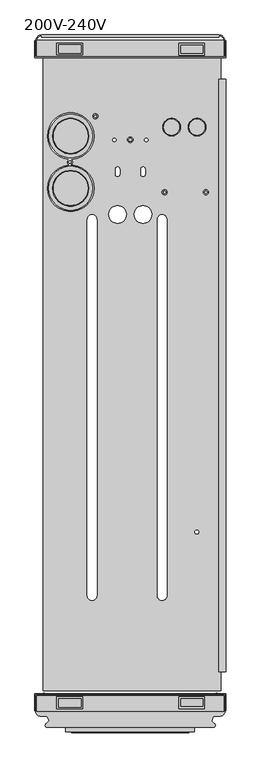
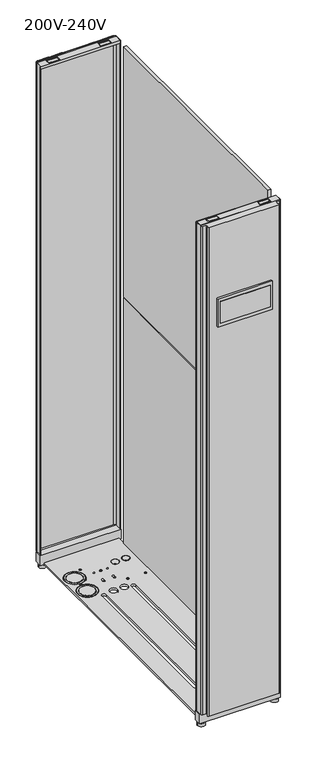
"""IFC4 building model written with IfcOpenShell, lengths in millimetres: proxy geometry, BIM_Model_for_ACRC301H-AC-Close_Coupled-Schneider_Electric-Chilled_Water-InRow_RC_301H-(208-230)V : 200V-240V."""

from ifc_helpers import new_model, si_unit, point, frame, frame_2d, origin, place, context, project, spatial, polyline, circle_curve, trimmed, segment, composite_curve, outline, extrude, source, transform, mapped, element, save


def proxy_200v_240v_835bb11a(model_context):
    return source(origin(), model_context, "Body", "SweptSolid", [
        extrude(outline(polyline([(142.2494993, -481.2304637), (-136.6898813, -481.2304637), (-136.6898813, 536.3846566), (142.2494993, 536.3846566), (142.2494993, -481.2304637)]), holes=[composite_curve([segment(trimmed(circle_curve(frame_2d((-93.7, 389.1530054)), 36.5), [point((-130.2, 389.1530054))], [point((-57.2, 389.1530054))], True, "CARTESIAN"), True, "CONTINUOUS"), segment(trimmed(circle_curve(frame_2d((-93.7, 389.1530054)), 36.5), [point((-57.2, 389.1530054))], [point((-130.2, 389.1530054))], True, "CARTESIAN"), True, "CONTINUOUS")], self_intersect=False), composite_curve([segment(trimmed(circle_curve(frame_2d((65.0, 403.1560054)), 13.8811), [point((51.1189, 403.1560054))], [point((78.8811, 403.1560054))], True, "CARTESIAN"), True, "CONTINUOUS"), segment(trimmed(circle_curve(frame_2d((65.0, 403.1560054)), 13.8811), [point((78.8811, 403.1560054))], [point((51.1189, 403.1560054))], True, "CARTESIAN"), True, "CONTINUOUS")], self_intersect=False), composite_curve([segment(trimmed(circle_curve(frame_2d((105.0, 403.1560054)), 13.8811), [point((91.1189, 403.1560054))], [point((118.8811, 403.1560054))], True, "CARTESIAN"), True, "CONTINUOUS"), segment(trimmed(circle_curve(frame_2d((105.0, 403.1560054)), 13.8811), [point((118.8811, 403.1560054))], [point((91.1189, 403.1560054))], True, "CARTESIAN"), True, "CONTINUOUS")], self_intersect=False), composite_curve([segment(trimmed(circle_curve(frame_2d((-93.7, 307.1530054)), 36.5), [point((-130.2, 307.1530054))], [point((-57.2, 307.1530054))], True, "CARTESIAN"), True, "CONTINUOUS"), segment(trimmed(circle_curve(frame_2d((-93.7, 307.1530054)), 36.5), [point((-57.2, 307.1530054))], [point((-130.2, 307.1530054))], True, "CARTESIAN"), True, "CONTINUOUS")], self_intersect=False), composite_curve([segment(trimmed(circle_curve(frame_2d((-20.0, 329.1560054)), 3.5), [point((-23.5, 329.1560054))], [point((-16.5, 329.1560054))], True, "CARTESIAN"), True, "CONTINUOUS"), segment(polyline([(-16.5, 329.1560054), (-16.5, 337.1560054)]), True, "CONTINUOUS"), segment(trimmed(circle_curve(frame_2d((-20.0, 337.1560054)), 3.5), [point((-16.5, 337.1560054))], [point((-23.5, 337.1560054))], True, "CARTESIAN"), True, "CONTINUOUS"), segment(polyline([(-23.5, 337.1560054), (-23.5, 329.1560054)]), True, "CONTINUOUS")], self_intersect=False), composite_curve([segment(trimmed(circle_curve(frame_2d((20.0, 329.1560054)), 3.5), [point((16.5, 329.1560054))], [point((23.5, 329.1560054))], True, "CARTESIAN"), True, "CONTINUOUS"), segment(polyline([(23.5, 329.1560054), (23.5, 337.1560054)]), True, "CONTINUOUS"), segment(trimmed(circle_curve(frame_2d((20.0, 337.1560054)), 3.5), [point((23.5, 337.1560054))], [point((16.5, 337.1560054))], True, "CARTESIAN"), True, "CONTINUOUS"), segment(polyline([(16.5, 337.1560054), (16.5, 329.1560054)]), True, "CONTINUOUS")], self_intersect=False), composite_curve([segment(trimmed(circle_curve(frame_2d((50.0, -331.8439946)), 7.5498344), [point((42.4501656, -331.8439946))], [point((57.5498344, -331.8439946))], True, "CARTESIAN"), True, "CONTINUOUS"), segment(polyline([(57.5498344, -331.8439946), (57.5498344, 258.1560054)]), True, "CONTINUOUS"), segment(trimmed(circle_curve(frame_2d((50.0, 258.1560054)), 7.5498344), [point((57.5498344, 258.1560054))], [point((42.4501656, 258.1560054))], True, "CARTESIAN"), True, "CONTINUOUS"), segment(polyline([(42.4501656, 258.1560054), (42.4501656, -331.8439946)]), True, "CONTINUOUS")], self_intersect=False), composite_curve([segment(polyline([(-67.5498344, 258.1560054), (-67.5498344, -331.8439946)]), True, "CONTINUOUS"), segment(trimmed(circle_curve(frame_2d((-60.0, -331.8439946)), 7.5498344), [point((-67.5498344, -331.8439946))], [point((-52.4501656, -331.8439946))], True, "CARTESIAN"), True, "CONTINUOUS"), segment(polyline([(-52.4501656, -331.8439946), (-52.4501656, 258.1560054)]), True, "CONTINUOUS"), segment(trimmed(circle_curve(frame_2d((-60.0, 258.1560054)), 7.5498344), [point((-52.4501656, 258.1560054))], [point((-67.5498344, 258.1560054))], True, "CARTESIAN"), True, "CONTINUOUS")], self_intersect=False), composite_curve([segment(trimmed(circle_curve(frame_2d((-20.0, 266.1560054)), 13.9), [point((-33.9, 266.1560054))], [point((-6.1, 266.1560054))], True, "CARTESIAN"), True, "CONTINUOUS"), segment(trimmed(circle_curve(frame_2d((-20.0, 266.1560054)), 13.9), [point((-6.1, 266.1560054))], [point((-33.9, 266.1560054))], True, "CARTESIAN"), True, "CONTINUOUS")], self_intersect=False), composite_curve([segment(trimmed(circle_curve(frame_2d((20.0, 266.1560054)), 13.9), [point((6.1, 266.1560054))], [point((33.9, 266.1560054))], True, "CARTESIAN"), True, "CONTINUOUS"), segment(trimmed(circle_curve(frame_2d((20.0, 266.1560054)), 13.9), [point((33.9, 266.1560054))], [point((6.1, 266.1560054))], True, "CARTESIAN"), True, "CONTINUOUS")], self_intersect=False), composite_curve([segment(trimmed(circle_curve(frame_2d((0.0, 383.1560054)), 4.35), [point((-4.35, 383.1560054))], [point((4.35, 383.1560054))], True, "CARTESIAN"), True, "CONTINUOUS"), segment(trimmed(circle_curve(frame_2d((0.0, 383.1560054)), 4.35), [point((4.35, 383.1560054))], [point((-4.35, 383.1560054))], True, "CARTESIAN"), True, "CONTINUOUS")], self_intersect=False), composite_curve([segment(trimmed(circle_curve(frame_2d((25.0, 383.1560054)), 2.664701), [point((22.335299, 383.1560054))], [point((27.664701, 383.1560054))], True, "CARTESIAN"), True, "CONTINUOUS"), segment(trimmed(circle_curve(frame_2d((25.0, 383.1560054)), 2.664701), [point((27.664701, 383.1560054))], [point((22.335299, 383.1560054))], True, "CARTESIAN"), True, "CONTINUOUS")], self_intersect=False), composite_curve([segment(trimmed(circle_curve(frame_2d((-25.0, 383.1560054)), 2.664701), [point((-27.664701, 383.1560054))], [point((-22.335299, 383.1560054))], True, "CARTESIAN"), True, "CONTINUOUS"), segment(trimmed(circle_curve(frame_2d((-25.0, 383.1560054)), 2.664701), [point((-22.335299, 383.1560054))], [point((-27.664701, 383.1560054))], True, "CARTESIAN"), True, "CONTINUOUS")], self_intersect=False), composite_curve([segment(trimmed(circle_curve(frame_2d((-54.7, 420.1530054)), 3.95), [point((-58.65, 420.1530054))], [point((-50.75, 420.1530054))], True, "CARTESIAN"), True, "CONTINUOUS"), segment(trimmed(circle_curve(frame_2d((-54.7, 420.1530054)), 3.95), [point((-50.75, 420.1530054))], [point((-58.65, 420.1530054))], True, "CARTESIAN"), True, "CONTINUOUS")], self_intersect=False), composite_curve([segment(trimmed(circle_curve(frame_2d((118.82, 300.9660054)), 3.95), [point((114.87, 300.9660054))], [point((122.77, 300.9660054))], True, "CARTESIAN"), True, "CONTINUOUS"), segment(trimmed(circle_curve(frame_2d((118.82, 300.9660054)), 3.95), [point((122.77, 300.9660054))], [point((114.87, 300.9660054))], True, "CARTESIAN"), True, "CONTINUOUS")], self_intersect=False), composite_curve([segment(trimmed(circle_curve(frame_2d((53.82, 300.9660054)), 3.95), [point((49.87, 300.9660054))], [point((57.77, 300.9660054))], True, "CARTESIAN"), True, "CONTINUOUS"), segment(trimmed(circle_curve(frame_2d((53.82, 300.9660054)), 3.95), [point((57.77, 300.9660054))], [point((49.87, 300.9660054))], True, "CARTESIAN"), True, "CONTINUOUS")], self_intersect=False), composite_curve([segment(trimmed(circle_curve(frame_2d((104.6730485, -232.1853709)), 3.0), [point((101.6730485, -232.1853709))], [point((107.6730485, -232.1853709))], True, "CARTESIAN"), True, "CONTINUOUS"), segment(trimmed(circle_curve(frame_2d((104.6730485, -232.1853709)), 3.0), [point((107.6730485, -232.1853709))], [point((101.6730485, -232.1853709))], True, "CARTESIAN"), True, "CONTINUOUS")], self_intersect=False), composite_curve([segment(trimmed(circle_curve(frame_2d((-94.7, 348.1530054)), 3.95), [point((-98.65, 348.1530054))], [point((-90.75, 348.1530054))], True, "CARTESIAN"), True, "CONTINUOUS"), segment(trimmed(circle_curve(frame_2d((-94.7, 348.1530054)), 3.95), [point((-90.75, 348.1530054))], [point((-98.65, 348.1530054))], True, "CARTESIAN"), True, "CONTINUOUS")], self_intersect=False)]), frame((0.0, 0.0, 35.0), z_axis=(0.0, 0.0, 1.0), x_axis=(1.0, 0.0, 0.0)), (0.0, 0.0, 1.0), 7.0),
        extrude(outline(composite_curve([segment(trimmed(circle_curve(frame_2d((-93.7, 389.1530054)), 34.5), [point((-128.2, 389.1530054))], [point((-59.2, 389.1530054))], False, "CARTESIAN"), True, "CONTINUOUS"), segment(trimmed(circle_curve(frame_2d((-93.7, 389.1530054)), 34.5), [point((-59.2, 389.1530054))], [point((-128.2, 389.1530054))], False, "CARTESIAN"), True, "CONTINUOUS")], self_intersect=False), holes=[composite_curve([segment(trimmed(circle_curve(frame_2d((-93.7, 389.1530054)), 28.0), [point((-121.7, 389.1530054))], [point((-65.7, 389.1530054))], True, "CARTESIAN"), True, "CONTINUOUS"), segment(trimmed(circle_curve(frame_2d((-93.7, 389.1530054)), 28.0), [point((-65.7, 389.1530054))], [point((-121.7, 389.1530054))], True, "CARTESIAN"), True, "CONTINUOUS")], self_intersect=False)]), frame((0.0, 0.0, 35.0), z_axis=(0.0, 0.0, 1.0), x_axis=(1.0, 0.0, 0.0)), (0.0, 0.0, 1.0), 7.0),
        extrude(outline(composite_curve([segment(trimmed(circle_curve(frame_2d((-93.7, 389.1530054)), 27.0), [point((-120.7, 389.1530054))], [point((-66.7, 389.1530054))], False, "CARTESIAN"), True, "CONTINUOUS"), segment(trimmed(circle_curve(frame_2d((-93.7, 389.1530054)), 27.0), [point((-66.7, 389.1530054))], [point((-120.7, 389.1530054))], False, "CARTESIAN"), True, "CONTINUOUS")], self_intersect=False)), frame((0.0, 0.0, 35.0), z_axis=(0.0, 0.0, 1.0), x_axis=(1.0, 0.0, 0.0)), (0.0, 0.0, 1.0), 7.0),
        extrude(outline(composite_curve([segment(trimmed(circle_curve(frame_2d((65.0, 403.1560054)), 12.6111), [point((52.3889, 403.1560054))], [point((77.6111, 403.1560054))], False, "CARTESIAN"), True, "CONTINUOUS"), segment(trimmed(circle_curve(frame_2d((65.0, 403.1560054)), 12.6111), [point((77.6111, 403.1560054))], [point((52.3889, 403.1560054))], False, "CARTESIAN"), True, "CONTINUOUS")], self_intersect=False)), frame((0.0, 0.0, 35.0), z_axis=(0.0, 0.0, 1.0), x_axis=(1.0, 0.0, 0.0)), (0.0, 0.0, 1.0), 7.0),
        extrude(outline(composite_curve([segment(trimmed(circle_curve(frame_2d((105.0, 403.1560054)), 12.6111), [point((92.3889, 403.1560054))], [point((117.6111, 403.1560054))], False, "CARTESIAN"), True, "CONTINUOUS"), segment(trimmed(circle_curve(frame_2d((105.0, 403.1560054)), 12.6111), [point((117.6111, 403.1560054))], [point((92.3889, 403.1560054))], False, "CARTESIAN"), True, "CONTINUOUS")], self_intersect=False)), frame((0.0, 0.0, 35.0), z_axis=(0.0, 0.0, 1.0), x_axis=(1.0, 0.0, 0.0)), (0.0, 0.0, 1.0), 7.0),
        extrude(outline(composite_curve([segment(trimmed(circle_curve(frame_2d((-93.7, 307.1530054)), 34.5), [point((-128.2, 307.1530054))], [point((-59.2, 307.1530054))], False, "CARTESIAN"), True, "CONTINUOUS"), segment(trimmed(circle_curve(frame_2d((-93.7, 307.1530054)), 34.5), [point((-59.2, 307.1530054))], [point((-128.2, 307.1530054))], False, "CARTESIAN"), True, "CONTINUOUS")], self_intersect=False), holes=[composite_curve([segment(trimmed(circle_curve(frame_2d((-93.7, 307.1530054)), 28.0), [point((-121.7, 307.1530054))], [point((-65.7, 307.1530054))], True, "CARTESIAN"), True, "CONTINUOUS"), segment(trimmed(circle_curve(frame_2d((-93.7, 307.1530054)), 28.0), [point((-65.7, 307.1530054))], [point((-121.7, 307.1530054))], True, "CARTESIAN"), True, "CONTINUOUS")], self_intersect=False)]), frame((0.0, 0.0, 35.0), z_axis=(0.0, 0.0, 1.0), x_axis=(1.0, 0.0, 0.0)), (0.0, 0.0, 1.0), 7.0),
        extrude(outline(composite_curve([segment(trimmed(circle_curve(frame_2d((-93.7, 307.1530054)), 27.0), [point((-120.7, 307.1530054))], [point((-66.7, 307.1530054))], False, "CARTESIAN"), True, "CONTINUOUS"), segment(trimmed(circle_curve(frame_2d((-93.7, 307.1530054)), 27.0), [point((-66.7, 307.1530054))], [point((-120.7, 307.1530054))], False, "CARTESIAN"), True, "CONTINUOUS")], self_intersect=False)), frame((0.0, 0.0, 35.0), z_axis=(0.0, 0.0, 1.0), x_axis=(1.0, 0.0, 0.0)), (0.0, 0.0, 1.0), 7.0),
        extrude(outline(composite_curve([segment(trimmed(circle_curve(frame_2d((0.0, 383.1560054)), 2.5), [point((-2.5, 383.1560054))], [point((2.5, 383.1560054))], False, "CARTESIAN"), True, "CONTINUOUS"), segment(trimmed(circle_curve(frame_2d((0.0, 383.1560054)), 2.5), [point((2.5, 383.1560054))], [point((-2.5, 383.1560054))], False, "CARTESIAN"), True, "CONTINUOUS")], self_intersect=False)), frame((0.0, 0.0, 35.0), z_axis=(0.0, 0.0, 1.0), x_axis=(1.0, 0.0, 0.0)), (0.0, 0.0, 1.0), 7.0),
        extrude(outline(composite_curve([segment(trimmed(circle_curve(frame_2d((-54.7, 420.1530054)), 2.0), [point((-56.7, 420.1530054))], [point((-52.7, 420.1530054))], False, "CARTESIAN"), True, "CONTINUOUS"), segment(trimmed(circle_curve(frame_2d((-54.7, 420.1530054)), 2.0), [point((-52.7, 420.1530054))], [point((-56.7, 420.1530054))], False, "CARTESIAN"), True, "CONTINUOUS")], self_intersect=False)), frame((0.0, 0.0, 35.0), z_axis=(0.0, 0.0, 1.0), x_axis=(1.0, 0.0, 0.0)), (0.0, 0.0, 1.0), 7.0),
        extrude(outline(composite_curve([segment(trimmed(circle_curve(frame_2d((118.82, 300.9660054)), 2.0), [point((116.82, 300.9660054))], [point((120.82, 300.9660054))], False, "CARTESIAN"), True, "CONTINUOUS"), segment(trimmed(circle_curve(frame_2d((118.82, 300.9660054)), 2.0), [point((120.82, 300.9660054))], [point((116.82, 300.9660054))], False, "CARTESIAN"), True, "CONTINUOUS")], self_intersect=False)), frame((0.0, 0.0, 35.0), z_axis=(0.0, 0.0, 1.0), x_axis=(1.0, 0.0, 0.0)), (0.0, 0.0, 1.0), 7.0),
        extrude(outline(composite_curve([segment(trimmed(circle_curve(frame_2d((53.82, 300.9660054)), 2.0), [point((51.82, 300.9660054))], [point((55.82, 300.9660054))], False, "CARTESIAN"), True, "CONTINUOUS"), segment(trimmed(circle_curve(frame_2d((53.82, 300.9660054)), 2.0), [point((55.82, 300.9660054))], [point((51.82, 300.9660054))], False, "CARTESIAN"), True, "CONTINUOUS")], self_intersect=False)), frame((0.0, 0.0, 35.0), z_axis=(0.0, 0.0, 1.0), x_axis=(1.0, 0.0, 0.0)), (0.0, 0.0, 1.0), 7.0),
        extrude(outline(composite_curve([segment(trimmed(circle_curve(frame_2d((-94.7, 348.1530054)), 2.0), [point((-96.7, 348.1530054))], [point((-92.7, 348.1530054))], False, "CARTESIAN"), True, "CONTINUOUS"), segment(trimmed(circle_curve(frame_2d((-94.7, 348.1530054)), 2.0), [point((-92.7, 348.1530054))], [point((-96.7, 348.1530054))], False, "CARTESIAN"), True, "CONTINUOUS")], self_intersect=False)), frame((0.0, 0.0, 35.0), z_axis=(0.0, 0.0, 1.0), x_axis=(1.0, 0.0, 0.0)), (0.0, 0.0, 1.0), 7.0),
        extrude(outline(polyline([(92.0038609, -545.8500182), (92.0038609, -547.4999946), (-92.0036993, -547.4999946), (-92.0036993, -545.8500182), (92.0038609, -545.8500182)])), frame((0.0, 0.0, 1609.1384634), z_axis=(0.0, 0.0, 1.0), x_axis=(1.0, 0.0, 0.0)), (0.0, 0.0, 1.0), 84.0986283),
        extrude(outline(polyline([(100.6960411, -537.2923638), (100.6960411, -545.8500182), (-101.4999738, -545.8500182), (-101.4999738, -537.2923638), (100.6960411, -537.2923638)])), frame((0.0, 0.0, 1595.0), z_axis=(0.0, 0.0, 1.0), x_axis=(1.0, 0.0, 0.0)), (0.0, 0.0, 1.0), 111.0),
        extrude(outline(polyline([(-150.0, 511.6535774), (-150.0, 538.7500054), (150.0, 538.7500054), (150.0, 511.6535774), (-150.0, 511.6535774)])), frame((0.0, 0.0, 36.1092195), z_axis=(0.0, 0.0, 1.0), x_axis=(1.0, 0.0, 0.0)), (0.0, 0.0, 1.0), 37.8907805),
        extrude(outline(composite_curve([segment(trimmed(circle_curve(frame_2d((135.9887149, 524.0986273)), 5.0), [point((140.9887149, 524.0986273))], [point((130.9887149, 524.0986273))], False, "CARTESIAN"), True, "CONTINUOUS"), segment(trimmed(circle_curve(frame_2d((135.9887149, 524.0986273)), 5.0), [point((130.9887149, 524.0986273))], [point((140.9887149, 524.0986273))], False, "CARTESIAN"), True, "CONTINUOUS")], self_intersect=False)), frame((0.0, 0.0, 32.1019422), z_axis=(0.0, 0.0, 1.0), x_axis=(1.0, 0.0, 0.0)), (0.0, 0.0, 1.0), 10.4776725),
        extrude(outline(composite_curve([segment(trimmed(circle_curve(frame_2d((135.7422715, 524.7977296)), 13.7438765), [point((149.4861481, 524.7977296))], [point((121.998395, 524.7977296))], False, "CARTESIAN"), True, "CONTINUOUS"), segment(trimmed(circle_curve(frame_2d((135.7422715, 524.7977296)), 13.7438765), [point((121.998395, 524.7977296))], [point((149.4861481, 524.7977296))], False, "CARTESIAN"), True, "CONTINUOUS")], self_intersect=False)), frame((0.0, 0.0, 21.4769368), z_axis=(0.0, 0.0, 1.0), x_axis=(1.0, 0.0, 0.0)), (0.0, 0.0, 1.0), 11.9250061),
        extrude(outline(composite_curve([segment(trimmed(circle_curve(frame_2d((-135.9887149, 524.0986273)), 5.0), [point((-140.9887149, 524.0986273))], [point((-130.9887149, 524.0986273))], False, "CARTESIAN"), True, "CONTINUOUS"), segment(trimmed(circle_curve(frame_2d((-135.9887149, 524.0986273)), 5.0), [point((-130.9887149, 524.0986273))], [point((-140.9887149, 524.0986273))], False, "CARTESIAN"), True, "CONTINUOUS")], self_intersect=False)), frame((0.0, 0.0, 32.1019422), z_axis=(0.0, 0.0, 1.0), x_axis=(1.0, 0.0, 0.0)), (0.0, 0.0, 1.0), 10.4776725),
        extrude(outline(composite_curve([segment(trimmed(circle_curve(frame_2d((-135.7422715, 524.7977296)), 13.7438765), [point((-149.4861481, 524.7977296))], [point((-121.998395, 524.7977296))], False, "CARTESIAN"), True, "CONTINUOUS"), segment(trimmed(circle_curve(frame_2d((-135.7422715, 524.7977296)), 13.7438765), [point((-121.998395, 524.7977296))], [point((-149.4861481, 524.7977296))], False, "CARTESIAN"), True, "CONTINUOUS")], self_intersect=False)), frame((0.0, 0.0, 21.4769368), z_axis=(0.0, 0.0, 1.0), x_axis=(1.0, 0.0, 0.0)), (0.0, 0.0, 1.0), 11.9250061),
        extrude(outline(composite_curve([segment(trimmed(circle_curve(frame_2d((135.9887149, -497.8486165)), 5.0), [point((140.9887149, -497.8486165))], [point((130.9887149, -497.8486165))], False, "CARTESIAN"), True, "CONTINUOUS"), segment(trimmed(circle_curve(frame_2d((135.9887149, -497.8486165)), 5.0), [point((130.9887149, -497.8486165))], [point((140.9887149, -497.8486165))], False, "CARTESIAN"), True, "CONTINUOUS")], self_intersect=False)), frame((0.0, 0.0, 32.1019422), z_axis=(0.0, 0.0, 1.0), x_axis=(1.0, 0.0, 0.0)), (0.0, 0.0, 1.0), 10.4776725),
        extrude(outline(composite_curve([segment(trimmed(circle_curve(frame_2d((135.7422715, -498.5477187)), 13.7438765), [point((149.4861481, -498.5477187))], [point((121.998395, -498.5477187))], False, "CARTESIAN"), True, "CONTINUOUS"), segment(trimmed(circle_curve(frame_2d((135.7422715, -498.5477187)), 13.7438765), [point((121.998395, -498.5477187))], [point((149.4861481, -498.5477187))], False, "CARTESIAN"), True, "CONTINUOUS")], self_intersect=False)), frame((0.0, 0.0, 21.4769368), z_axis=(0.0, 0.0, 1.0), x_axis=(1.0, 0.0, 0.0)), (0.0, 0.0, 1.0), 11.9250061),
        extrude(outline(composite_curve([segment(trimmed(circle_curve(frame_2d((-135.9887149, -497.8486165)), 5.0), [point((-140.9887149, -497.8486165))], [point((-130.9887149, -497.8486165))], False, "CARTESIAN"), True, "CONTINUOUS"), segment(trimmed(circle_curve(frame_2d((-135.9887149, -497.8486165)), 5.0), [point((-130.9887149, -497.8486165))], [point((-140.9887149, -497.8486165))], False, "CARTESIAN"), True, "CONTINUOUS")], self_intersect=False)), frame((0.0, 0.0, 32.1019422), z_axis=(0.0, 0.0, 1.0), x_axis=(1.0, 0.0, 0.0)), (0.0, 0.0, 1.0), 10.4776725),
        extrude(outline(composite_curve([segment(trimmed(circle_curve(frame_2d((-135.7422715, -498.5477187)), 13.7438765), [point((-149.4861481, -498.5477187))], [point((-121.998395, -498.5477187))], False, "CARTESIAN"), True, "CONTINUOUS"), segment(trimmed(circle_curve(frame_2d((-135.7422715, -498.5477187)), 13.7438765), [point((-121.998395, -498.5477187))], [point((-149.4861481, -498.5477187))], False, "CARTESIAN"), True, "CONTINUOUS")], self_intersect=False)), frame((0.0, 0.0, 21.4769368), z_axis=(0.0, 0.0, 1.0), x_axis=(1.0, 0.0, 0.0)), (0.0, 0.0, 1.0), 11.9250061),
        extrude(outline(polyline([(-150.0, -485.4035665), (150.0, -485.4035665), (150.0, -512.4999946), (-150.0, -512.4999946), (-150.0, -485.4035665)])), frame((0.0, 0.0, 36.1092195), z_axis=(0.0, 0.0, 1.0), x_axis=(1.0, 0.0, 0.0)), (0.0, 0.0, 1.0), 37.8907805),
        extrude(outline(polyline([(147.270335, -489.2696386), (147.270335, -513.7425298), (-147.0859984, -513.7425298), (-147.0859984, -489.2696386), (147.270335, -489.2696386)]), holes=[polyline([(-115.7902992, -491.0520969), (-115.7902992, -509.417152), (-74.7110402, -509.417152), (-74.7110402, -491.0520969), (-115.7902992, -491.0520969)]), polyline([(76.6606041, -490.81064), (76.6606041, -509.2856674), (116.6606041, -509.2856674), (116.6606041, -490.81064), (76.6606041, -490.81064)])]), frame((0.0, 0.0, 1980.0), z_axis=(0.0, 0.0, 1.0), x_axis=(1.0, 0.0, 0.0)), (0.0, 0.0, 1.0), 11.0),
        extrude(outline(polyline([(114.3251427, -505.8773154), (79.2440917, -505.8773154), (79.2440917, -493.6228028), (114.3251427, -493.6228028), (114.3251427, -505.8773154)])), frame((0.0, 0.0, 1980.0), z_axis=(0.0, 0.0, 1.0), x_axis=(1.0, 0.0, 0.0)), (0.0, 0.0, 1.0), 11.0),
        extrude(outline(polyline([(-77.1999607, -507.2949543), (-112.7561656, -507.2949543), (-112.7561656, -493.6228028), (-77.1999607, -493.6228028), (-77.1999607, -507.2949543)])), frame((0.0, 0.0, 1980.0), z_axis=(0.0, 0.0, 1.0), x_axis=(1.0, 0.0, 0.0)), (0.0, 0.0, 1.0), 11.0),
        extrude(outline(composite_curve([segment(trimmed(circle_curve(frame_2d((-141.8999956, -514.5409768)), 6.5189235), [point((-141.8999956, -521.0599003))], [point((-148.4189191, -514.5409768))], False, "CARTESIAN"), True, "CONTINUOUS"), segment(polyline([(-148.4189191, -514.5409768), (-148.4189191, -490.840964), (-148.4189191, -487.8409623), (-146.8999983, -487.8409623), (146.9001603, -487.8409623), (148.4190811, -487.8409623), (148.4190811, -490.840964), (148.4190811, -514.5409768)]), True, "CONTINUOUS"), segment(trimmed(circle_curve(frame_2d((141.9001576, -514.5409768)), 6.5189235), [point((148.4190811, -514.5409768))], [point((141.9001576, -521.0599003))], False, "CARTESIAN"), True, "CONTINUOUS"), segment(polyline([(141.9001576, -521.0599003), (130.5632957, -521.0599003), (127.8405226, -528.5406579)]), True, "CONTINUOUS"), segment(trimmed(circle_curve(frame_2d((128.5446346, -528.7969337)), 0.7493004), [point((127.8405226, -528.5406579))], [point((128.0629936, -529.3709311))], True, "CARTESIAN"), True, "CONTINUOUS"), segment(polyline([(128.0629936, -529.3709311), (132.2086562, -532.8495551)]), True, "CONTINUOUS"), segment(trimmed(circle_curve(frame_2d((129.9467368, -535.5452056)), 3.5189219), [point((132.2086562, -532.8495551))], [point((129.7183293, -539.0567069))], False, "CARTESIAN"), True, "CONTINUOUS"), segment(trimmed(circle_curve(frame_2d((8.1e-05, -2533.3245216)), 1998.4821592), [point((129.7183293, -539.0567069))], [point((-129.7181673, -539.0567069))], True, "CARTESIAN"), True, "CONTINUOUS"), segment(trimmed(circle_curve(frame_2d((-129.9465748, -535.5452056)), 3.5189219), [point((-129.7181673, -539.0567069))], [point((-132.2084942, -532.8495551))], False, "CARTESIAN"), True, "CONTINUOUS"), segment(polyline([(-132.2084942, -532.8495551), (-128.0628316, -529.3709311)]), True, "CONTINUOUS"), segment(trimmed(circle_curve(frame_2d((-128.5444726, -528.7969337)), 0.7493004), [point((-128.0628316, -529.3709311))], [point((-127.8403606, -528.5406579))], True, "CARTESIAN"), True, "CONTINUOUS"), segment(polyline([(-127.8403606, -528.5406579), (-130.5631337, -521.0599003), (-141.8999956, -521.0599003)]), True, "CONTINUOUS")], self_intersect=False)), frame((0.0, 0.0, 75.0), z_axis=(0.0, 0.0, 1.0), x_axis=(1.0, 0.0, 0.0)), (0.0, 0.0, 1.0), 1916.0),
        extrude(outline(polyline([(150.0, 478.2173791), (150.0, -451.7831231), (139.4999943, -451.7831231), (139.4999943, 478.2173791), (150.0, 478.2173791)])), frame((0.0, 0.0, 1010.4768757), z_axis=(0.0, 0.0, 1.0), x_axis=(1.0, 0.0, 0.0)), (0.0, 0.0, 1.0), 980.5231243),
        extrude(outline(polyline([(150.0, 478.2173791), (150.0, -451.7831231), (139.4999943, -451.7831231), (139.4999943, 478.2173791), (150.0, 478.2173791)])), frame((0.0, 0.0, 36.1092195), z_axis=(0.0, 0.0, 1.0), x_axis=(1.0, 0.0, 0.0)), (0.0, 0.0, 1.0), 969.5914039),
        extrude(outline(polyline([(147.270335, 514.2696495), (-147.0859984, 514.2696495), (-147.0859984, 538.7425407), (147.270335, 538.7425407), (147.270335, 514.2696495)]), holes=[polyline([(-115.7902992, 516.0521078), (-74.7110402, 516.0521078), (-74.7110402, 534.4171629), (-115.7902992, 534.4171629), (-115.7902992, 516.0521078)]), polyline([(76.6606041, 515.8106508), (116.6606041, 515.8106508), (116.6606041, 534.2856783), (76.6606041, 534.2856783), (76.6606041, 515.8106508)])]), frame((0.0, 0.0, 1980.0), z_axis=(0.0, 0.0, 1.0), x_axis=(1.0, 0.0, 0.0)), (0.0, 0.0, 1.0), 11.0),
        extrude(outline(polyline([(114.3251427, 530.8773263), (114.3251427, 518.6228137), (79.2440917, 518.6228137), (79.2440917, 530.8773263), (114.3251427, 530.8773263)])), frame((0.0, 0.0, 1980.0), z_axis=(0.0, 0.0, 1.0), x_axis=(1.0, 0.0, 0.0)), (0.0, 0.0, 1.0), 11.0),
        extrude(outline(polyline([(-77.1999607, 532.2949651), (-77.1999607, 518.6228137), (-112.7561656, 518.6228137), (-112.7561656, 532.2949651), (-77.1999607, 532.2949651)])), frame((0.0, 0.0, 1980.0), z_axis=(0.0, 0.0, 1.0), x_axis=(1.0, 0.0, 0.0)), (0.0, 0.0, 1.0), 11.0),
        extrude(outline(composite_curve([segment(polyline([(139.2861562, 546.2395961), (139.2861562, 544.1365949), (-139.2859942, 544.1365949), (-139.2859942, 546.2395961)]), True, "CONTINUOUS"), segment(trimmed(circle_curve(frame_2d((-139.2859942, 538.2395917)), 8.0000043), [point((-139.2859942, 546.2395961))], [point((-147.2859985, 538.2395917))], True, "CARTESIAN"), True, "CONTINUOUS"), segment(polyline([(-147.2859985, 538.2395917), (-147.2859985, 516.6535801), (-147.2859985, 514.1535787), (-148.4999992, 514.1535787), (-148.4999992, 516.6535801), (-148.4999992, 538.2395917)]), True, "CONTINUOUS"), segment(trimmed(circle_curve(frame_2d((-139.2859942, 538.2395917)), 9.214005), [point((-148.4999992, 538.2395917))], [point((-139.2859942, 547.4535967))], False, "CARTESIAN"), True, "CONTINUOUS"), segment(polyline([(-139.2859942, 547.4535967), (-102.4999743, 547.4535967), (-97.4999716, 547.4535967), (-52.4999473, 547.4535967), (-47.4999446, 547.4535967), (-2.4999203, 547.4535967), (2.5000824, 547.4535967), (47.5001067, 547.4535967), (52.5001094, 547.4535967), (97.5001337, 547.4535967), (102.5001364, 547.4535967), (139.2861562, 547.4535967)]), True, "CONTINUOUS"), segment(trimmed(circle_curve(frame_2d((139.2861562, 538.2395917)), 9.214005), [point((139.2861562, 547.4535967))], [point((148.5001612, 538.2395917))], False, "CARTESIAN"), True, "CONTINUOUS"), segment(polyline([(148.5001612, 538.2395917), (148.5001612, 516.6535801), (148.5001612, 514.1535787), (147.2861605, 514.1535787), (147.2861605, 516.6535801), (147.2861605, 538.2395917)]), True, "CONTINUOUS"), segment(trimmed(circle_curve(frame_2d((139.2861562, 538.2395917)), 8.0000043), [point((147.2861605, 538.2395917))], [point((139.2861562, 546.2395961))], True, "CARTESIAN"), True, "CONTINUOUS")], self_intersect=False)), frame((0.0, 0.0, 76.199346), z_axis=(0.0, 0.0, 1.0), x_axis=(1.0, 0.0, 0.0)), (0.0, 0.0, 1.0), 1914.800654),
    ])


if __name__ == "__main__":
    model = new_model("IFC4")
    model_context = context("Model", 3, world=origin())
    ifc_project = project(units=[si_unit("LENGTHUNIT", "METRE", prefix="MILLI")], contexts=[model_context])
    site = spatial("IfcSite", under=ifc_project)
    building = spatial("IfcBuilding", under=site)
    placement = place(None, origin())
    proxy_200v_240v_shape = proxy_200v_240v_835bb11a(model_context)
    element("IfcBuildingElementProxy", 1, Name="BIM_Model_for_ACRC301H-AC-Close_Coupled-Schneider_Electric-Chilled_Water-InRow_RC_301H-(208-230)V : 200V-240V", ObjectType="BIM_Model_for_ACRC301H-AC-Close_Coupled-Schneider_Electric-Chilled_Water-InRow_RC_301H-(208-230)V : 200V-240V", at=placement, inside=building, context=model_context, shape_type="MappedRepresentation", body=[
        mapped(proxy_200v_240v_shape, transform((0.0, 0.0, 0.0), x_axis=(1.0, 0.0, 0.0), y_axis=(0.0, 1.0, 0.0), z_axis=(0.0, 0.0, 1.0))),
    ])
    save(model, "model.ifc")
